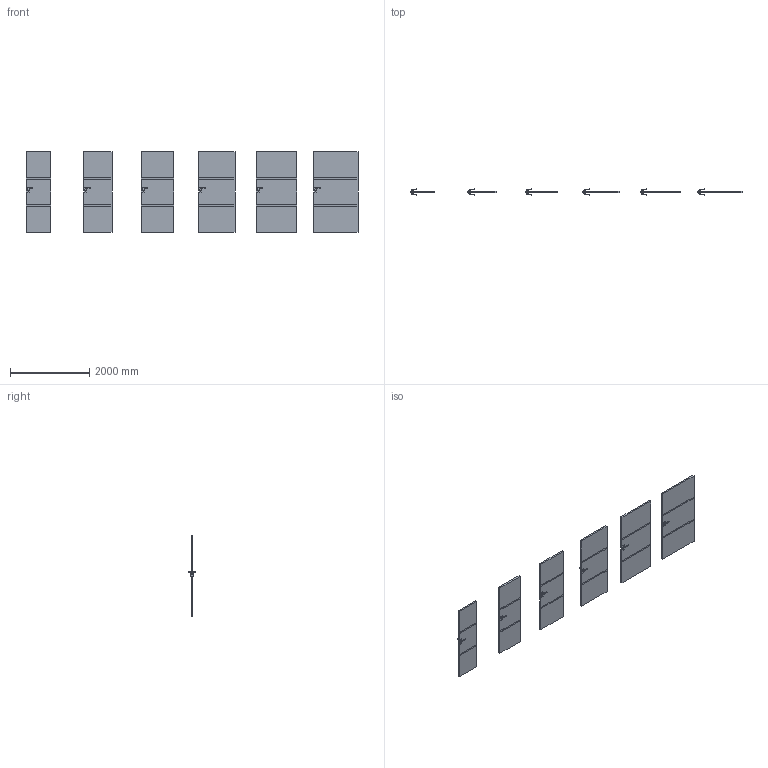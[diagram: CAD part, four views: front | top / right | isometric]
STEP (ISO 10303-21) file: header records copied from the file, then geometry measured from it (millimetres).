
FILE_DESCRIPTION(/* description */ (''),/* implementation_level */ '2;1');
FILE_NAME(/* name */ '049778_A_2-Skrzydło 4 Żywioły OGIEŃ model O.7_ polska norma _PN__ bezprzylgowe..stp',/* time_stamp */ '2024-03-15T14:22:27+01:00',/* author */ (''),/* organization */ (''),/* preprocessor_version */ 'ST-DEVELOPER v16',/* originating_system */ 'SIEMENS PLM Software NX 11.0',/* authorisation */ '');
FILE_SCHEMA (('AUTOMOTIVE_DESIGN { 1 0 10303 214 3 1 1 1 }'));
Length unit declared in the file: millimetre
Products named in the file (1): bkni33F4D18Cdteb
Bounding box: 8368 x 153.27 x 2017 mm (x, y, z)
Volume: 414197066.7 mm3; surface area: 24217122.6 mm2
Topology: 54 solids, 54 shells, 1188 faces, 2712 edges, 1512 vertices
Faces by surface type: plane 564, cylinder 264, bspline 192, sphere 168
Entity records: 38680 total; most frequent: CARTESIAN_POINT 13669, ORIENTED_EDGE 5088, DIRECTION 4898, EDGE_CURVE 2544, AXIS2_PLACEMENT_3D 1717, VERTEX_POINT 1512, LINE 1464, VECTOR 1464
